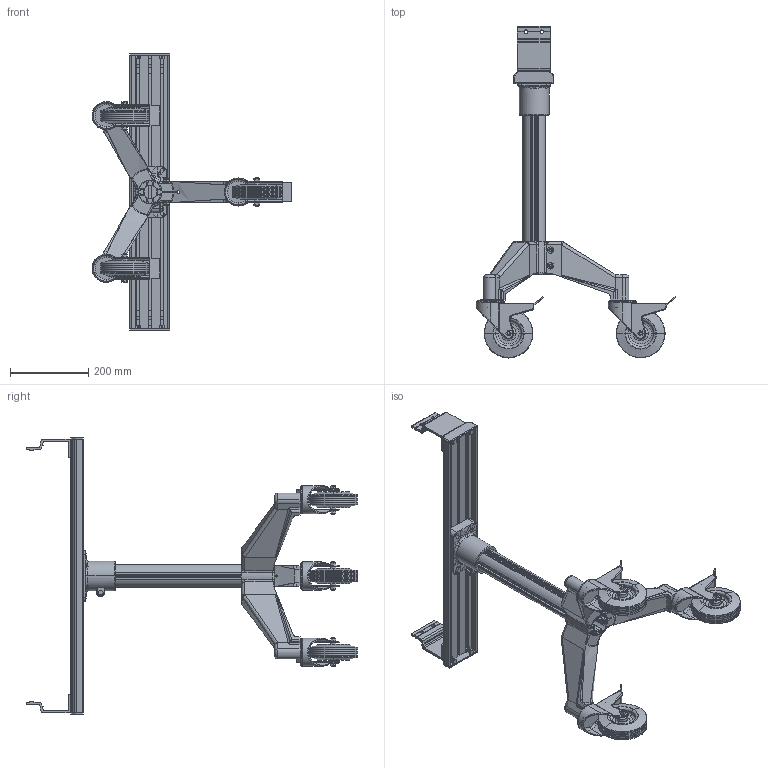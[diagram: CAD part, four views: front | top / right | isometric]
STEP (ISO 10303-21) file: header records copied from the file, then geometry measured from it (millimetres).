
FILE_DESCRIPTION (( 'STEP AP214' ), '1' );
FILE_NAME ('F2-2400-P3R.STEP', '2011-04-13T11:27:08', ( '.' ), ( '' ), 'SwSTEP 2.0', 'SolidWorks 2010', '' );
FILE_SCHEMA (( 'AUTOMOTIVE_DESIGN' ));
Length unit declared in the file: millimetre
Products named in the file (8): F2-2400-P3R; 331-4.t皻e d ''appui tripode; EPR pied FlexToo tripode_F2-2400<Brut d''usinage>; FAHBS-84 tripode_Avec lumière; EMEPR tripode; TUA-60-4R_0662; 331-3-NU tripode; roulette A49-125 tripode
Assembly tree (11 placements, depth 2):
  F2-2400-P3R
    TUA-60-4R_0662
    FAHBS-84 tripode_Avec lumière  x2
    roulette A49-125 tripode  x3
    331-4.t皻e d ''appui tripode
    EPR pied FlexToo tripode_F2-2400<Brut d''usinage>
    EMEPR tripode  x2
    331-3-NU tripode
Bounding box: 511.22 x 848.88 x 711 mm (x, y, z)
Volume: 5115353.1 mm3; surface area: 1196337.2 mm2
Topology: 11 solids, 11 shells, 1502 faces, 3729 edges, 2294 vertices
Faces by surface type: plane 592, cylinder 525, torus 235, bspline 86, cone 52, sphere 12
Entity records: 37212 total; most frequent: CARTESIAN_POINT 9846, ORIENTED_EDGE 4840, DIRECTION 4729, EDGE_CURVE 2420, AXIS2_PLACEMENT_3D 1727, VERTEX_POINT 1518, VECTOR 1275, LINE 1275
